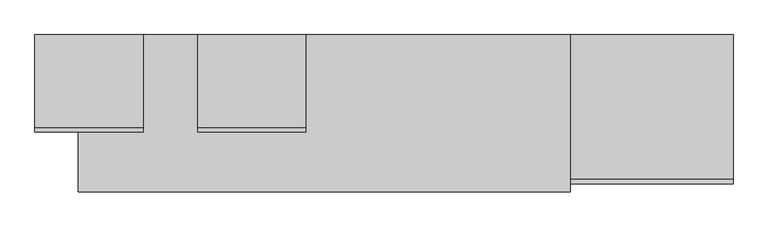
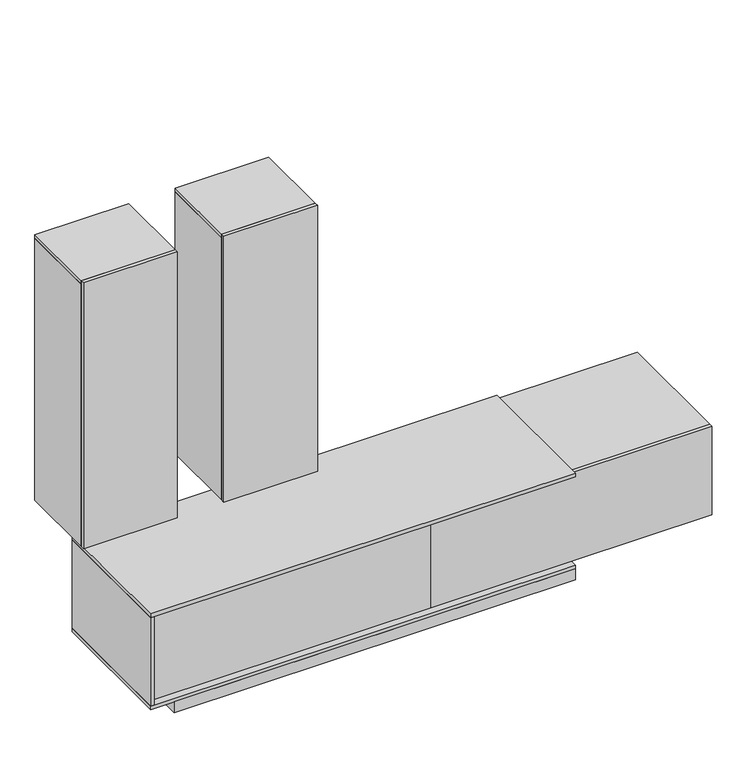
"""IFC4 building model written with IfcOpenShell, lengths in millimetres: furniture geometry, T70 - THESIS-Composizione 5 : T70 - THESIS-Composizione 5."""

from ifc_helpers import new_model, si_unit, frame, origin, origin_with_axes, place, context, project, spatial, polyline, outline, extrude, source, transform, mapped, element, save


def furniture_73a381e0(model_context):
    return source(origin(), model_context, "Body", "SweptSolid", [
        extrude(outline(polyline([(184.0, -344.0), (184.0, -360.0), (-216.0, -360.0), (-216.0, -344.0), (184.0, -344.0)])), frame((0.0, 0.0, 700.0), z_axis=(0.0, 0.0, 1.0), x_axis=(1.0, 0.0, 0.0)), (0.0, 0.0, 1.0), 1200.0),
        extrude(outline(polyline([(184.0, -344.0), (-216.0, -344.0), (-216.0, 0.0), (184.0, 0.0), (184.0, -344.0)])), frame((0.0, 0.0, 1884.0), z_axis=(0.0, 0.0, 1.0), x_axis=(1.0, 0.0, 0.0)), (0.0, 0.0, 1.0), 16.0),
        extrude(outline(polyline([(168.0, 0.0), (168.0, -16.0), (-200.0, -16.0), (-200.0, 0.0), (168.0, 0.0)])), frame((0.0, 0.0, 716.0), z_axis=(0.0, 0.0, 1.0), x_axis=(1.0, 0.0, 0.0)), (0.0, 0.0, 1.0), 1168.0),
        extrude(outline(polyline([(184.0, 0.0), (184.0, -344.0), (168.0, -344.0), (168.0, 0.0), (184.0, 0.0)])), frame((0.0, 0.0, 700.0), z_axis=(0.0, 0.0, 1.0), x_axis=(1.0, 0.0, 0.0)), (0.0, 0.0, 1.0), 1184.0),
        extrude(outline(polyline([(-200.0, 0.0), (-200.0, -344.0), (-216.0, -344.0), (-216.0, 0.0), (-200.0, 0.0)])), frame((0.0, 0.0, 700.0), z_axis=(0.0, 0.0, 1.0), x_axis=(1.0, 0.0, 0.0)), (0.0, 0.0, 1.0), 1184.0),
        extrude(outline(polyline([(168.0, 0.0), (168.0, -344.0), (-200.0, -344.0), (-200.0, 0.0), (168.0, 0.0)])), frame((0.0, 0.0, 700.0), z_axis=(0.0, 0.0, 1.0), x_axis=(1.0, 0.0, 0.0)), (0.0, 0.0, 1.0), 16.0),
        extrude(outline(polyline([(-416.0, -344.0), (-416.0, -360.0), (-816.0, -360.0), (-816.0, -344.0), (-416.0, -344.0)])), frame((0.0, 0.0, 700.0), z_axis=(0.0, 0.0, 1.0), x_axis=(1.0, 0.0, 0.0)), (0.0, 0.0, 1.0), 1200.0),
        extrude(outline(polyline([(-416.0, -344.0), (-816.0, -344.0), (-816.0, 0.0), (-416.0, 0.0), (-416.0, -344.0)])), frame((0.0, 0.0, 1884.0), z_axis=(0.0, 0.0, 1.0), x_axis=(1.0, 0.0, 0.0)), (0.0, 0.0, 1.0), 16.0),
        extrude(outline(polyline([(-432.0, 0.0), (-432.0, -16.0), (-800.0, -16.0), (-800.0, 0.0), (-432.0, 0.0)])), frame((0.0, 0.0, 716.0), z_axis=(0.0, 0.0, 1.0), x_axis=(1.0, 0.0, 0.0)), (0.0, 0.0, 1.0), 1168.0),
        extrude(outline(polyline([(-416.0, 0.0), (-416.0, -344.0), (-432.0, -344.0), (-432.0, 0.0), (-416.0, 0.0)])), frame((0.0, 0.0, 700.0), z_axis=(0.0, 0.0, 1.0), x_axis=(1.0, 0.0, 0.0)), (0.0, 0.0, 1.0), 1184.0),
        extrude(outline(polyline([(-800.0, 0.0), (-800.0, -344.0), (-816.0, -344.0), (-816.0, 0.0), (-800.0, 0.0)])), frame((0.0, 0.0, 700.0), z_axis=(0.0, 0.0, 1.0), x_axis=(1.0, 0.0, 0.0)), (0.0, 0.0, 1.0), 1184.0),
        extrude(outline(polyline([(-432.0, 0.0), (-432.0, -344.0), (-800.0, -344.0), (-800.0, 0.0), (-432.0, 0.0)])), frame((0.0, 0.0, 700.0), z_axis=(0.0, 0.0, 1.0), x_axis=(1.0, 0.0, 0.0)), (0.0, 0.0, 1.0), 16.0),
        extrude(outline(polyline([(1760.0, -534.0), (1760.0, -550.0), (560.0, -550.0), (560.0, -534.0), (1760.0, -534.0)])), frame((0.0, 0.0, 66.0), z_axis=(0.0, 0.0, 1.0), x_axis=(1.0, 0.0, 0.0)), (0.0, 0.0, 1.0), 400.0),
        extrude(outline(polyline([(1760.0, -534.0), (560.0, -534.0), (560.0, 0.0), (1760.0, 0.0), (1760.0, -534.0)])), frame((0.0, 0.0, 450.0), z_axis=(0.0, 0.0, 1.0), x_axis=(1.0, 0.0, 0.0)), (0.0, 0.0, 1.0), 16.0),
        extrude(outline(polyline([(1744.0, 0.0), (1744.0, -16.0), (576.0, -16.0), (576.0, 0.0), (1744.0, 0.0)])), frame((0.0, 0.0, 82.0), z_axis=(0.0, 0.0, 1.0), x_axis=(1.0, 0.0, 0.0)), (0.0, 0.0, 1.0), 368.0),
        extrude(outline(polyline([(1760.0, 0.0), (1760.0, -534.0), (1744.0, -534.0), (1744.0, 0.0), (1760.0, 0.0)])), frame((0.0, 0.0, 66.0), z_axis=(0.0, 0.0, 1.0), x_axis=(1.0, 0.0, 0.0)), (0.0, 0.0, 1.0), 384.0),
        extrude(outline(polyline([(576.0, 0.0), (576.0, -534.0), (560.0, -534.0), (560.0, 0.0), (576.0, 0.0)])), frame((0.0, 0.0, 66.0), z_axis=(0.0, 0.0, 1.0), x_axis=(1.0, 0.0, 0.0)), (0.0, 0.0, 1.0), 384.0),
        extrude(outline(polyline([(1744.0, 0.0), (1744.0, -534.0), (576.0, -534.0), (576.0, 0.0), (1744.0, 0.0)])), frame((0.0, 0.0, 66.0), z_axis=(0.0, 0.0, 1.0), x_axis=(1.0, 0.0, 0.0)), (0.0, 0.0, 1.0), 16.0),
        extrude(outline(polyline([(560.0, -534.0), (560.0, -550.0), (-640.0, -550.0), (-640.0, -534.0), (560.0, -534.0)])), frame((0.0, 0.0, 66.0), z_axis=(0.0, 0.0, 1.0), x_axis=(1.0, 0.0, 0.0)), (0.0, 0.0, 1.0), 400.0),
        extrude(outline(polyline([(560.0, -534.0), (-640.0, -534.0), (-640.0, 0.0), (560.0, 0.0), (560.0, -534.0)])), frame((0.0, 0.0, 450.0), z_axis=(0.0, 0.0, 1.0), x_axis=(1.0, 0.0, 0.0)), (0.0, 0.0, 1.0), 16.0),
        extrude(outline(polyline([(544.0, 0.0), (544.0, -16.0), (-624.0, -16.0), (-624.0, 0.0), (544.0, 0.0)])), frame((0.0, 0.0, 82.0), z_axis=(0.0, 0.0, 1.0), x_axis=(1.0, 0.0, 0.0)), (0.0, 0.0, 1.0), 368.0),
        extrude(outline(polyline([(560.0, 0.0), (560.0, -534.0), (544.0, -534.0), (544.0, 0.0), (560.0, 0.0)])), frame((0.0, 0.0, 66.0), z_axis=(0.0, 0.0, 1.0), x_axis=(1.0, 0.0, 0.0)), (0.0, 0.0, 1.0), 384.0),
        extrude(outline(polyline([(-624.0, 0.0), (-624.0, -534.0), (-640.0, -534.0), (-640.0, 0.0), (-624.0, 0.0)])), frame((0.0, 0.0, 66.0), z_axis=(0.0, 0.0, 1.0), x_axis=(1.0, 0.0, 0.0)), (0.0, 0.0, 1.0), 384.0),
        extrude(outline(polyline([(544.0, 0.0), (544.0, -534.0), (-624.0, -534.0), (-624.0, 0.0), (544.0, 0.0)])), frame((0.0, 0.0, 66.0), z_axis=(0.0, 0.0, 1.0), x_axis=(1.0, 0.0, 0.0)), (0.0, 0.0, 1.0), 16.0),
        extrude(outline(polyline([(1160.0, 0.0), (1160.0, -580.0), (-656.0, -580.0), (-656.0, 0.0), (1160.0, 0.0)])), frame((0.0, 0.0, 466.0), z_axis=(0.0, 0.0, 1.0), x_axis=(1.0, 0.0, 0.0)), (0.0, 0.0, 1.0), 16.0),
        extrude(outline(polyline([(-640.0, 0.0), (-640.0, -580.0), (-656.0, -580.0), (-656.0, 0.0), (-640.0, 0.0)])), frame((0.0, 0.0, 66.0), z_axis=(0.0, 0.0, 1.0), x_axis=(1.0, 0.0, 0.0)), (0.0, 0.0, 1.0), 400.0),
        extrude(outline(polyline([(-556.0, 0.0), (1160.0, 0.0), (1160.0, -580.0), (-556.0, -580.0), (-556.0, 0.0)])), origin_with_axes(), (0.0, 0.0, 1.0), 50.0),
        extrude(outline(polyline([(-656.0, 0.0), (1160.0, 0.0), (1160.0, -580.0), (-656.0, -580.0), (-656.0, 0.0)])), frame((0.0, 0.0, 50.0), z_axis=(0.0, 0.0, 1.0), x_axis=(1.0, 0.0, 0.0)), (0.0, 0.0, 1.0), 16.0),
    ])


if __name__ == "__main__":
    model = new_model("IFC4")
    model_context = context("Model", 3, world=origin())
    ifc_project = project(units=[si_unit("LENGTHUNIT", "METRE", prefix="MILLI")], contexts=[model_context])
    site = spatial("IfcSite", under=ifc_project)
    building = spatial("IfcBuilding", under=site)
    placement = place(None, origin())
    furniture_shape = furniture_73a381e0(model_context)
    element("IfcFurniture", 1, ObjectType="T70 - THESIS-Composizione 5 : T70 - THESIS-Composizione 5", at=placement, inside=building, context=model_context, shape_type="MappedRepresentation", body=[
        mapped(furniture_shape, transform((0.0, 0.0, 0.0), x_axis=(1.0, 0.0, 0.0), y_axis=(0.0, 1.0, 0.0), z_axis=(0.0, 0.0, 1.0))),
    ])
    save(model, "model.ifc")
